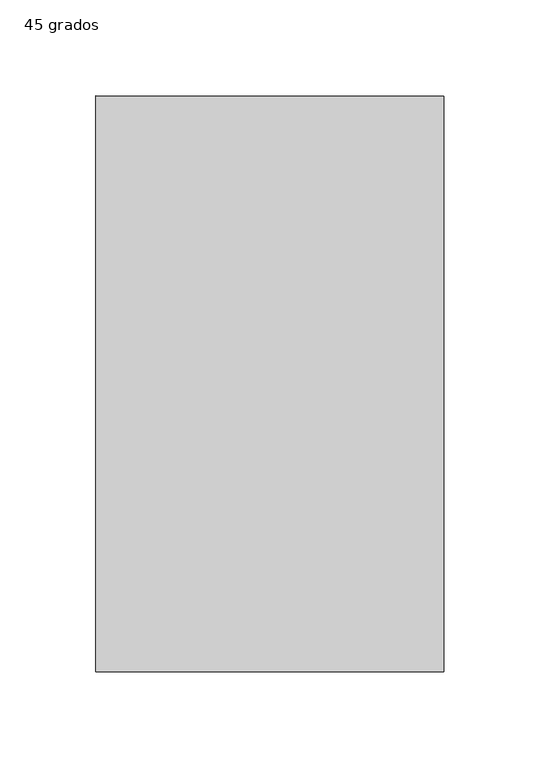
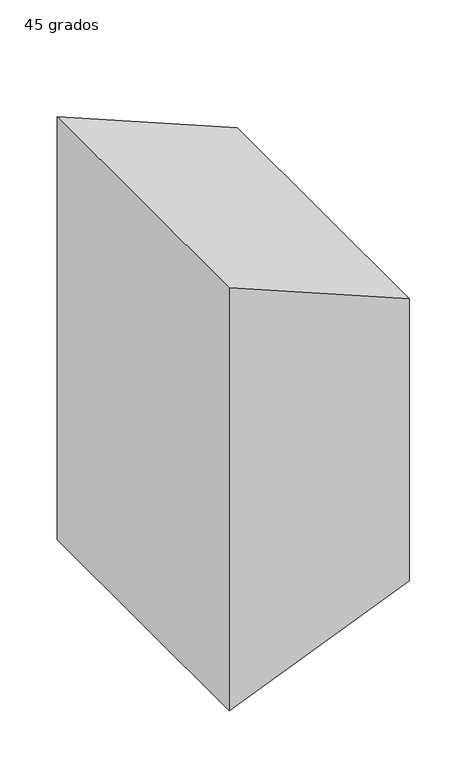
"""IFC4 building model written with IfcOpenShell, lengths in millimetres: duct fitting geometry, M_Transición rectangular - Ángulo : 45 grados."""

from ifc_helpers import new_model, si_unit, frame, origin, place, context, project, spatial, polyline, outline, extrude, source, transform, mapped, element, save


def duct_fitting_45_grados_6865c656(model_context):
    return source(origin(), model_context, "Body", "SweptSolid", [
        extrude(outline(polyline([(225.0, 0.0), (-225.0, 0.0), (-150.0, 181.0660172), (150.0, 181.0660172), (225.0, 0.0)])), frame((0.0, -150.0, 0.0), z_axis=(0.0, 1.0, 0.0), x_axis=(0.0, 0.0, 1.0)), (0.0, 0.0, 1.0), 300.0),
    ])


if __name__ == "__main__":
    model = new_model("IFC4")
    model_context = context("Model", 3, world=origin())
    ifc_project = project(units=[si_unit("LENGTHUNIT", "METRE", prefix="MILLI")], contexts=[model_context])
    site = spatial("IfcSite", under=ifc_project)
    building = spatial("IfcBuilding", under=site)
    placement = place(None, origin())
    duct_fitting_45_grados_shape = duct_fitting_45_grados_6865c656(model_context)
    element("IfcDuctFitting", 1, ObjectType="M_Transición rectangular - Ángulo : 45 grados", at=placement, inside=building, context=model_context, shape_type="MappedRepresentation", body=[
        mapped(duct_fitting_45_grados_shape, transform((0.0, 0.0, 0.0), x_axis=(1.0, 0.0, 0.0), y_axis=(0.0, 1.0, 0.0), z_axis=(0.0, 0.0, 1.0))),
    ])
    save(model, "model.ifc")
